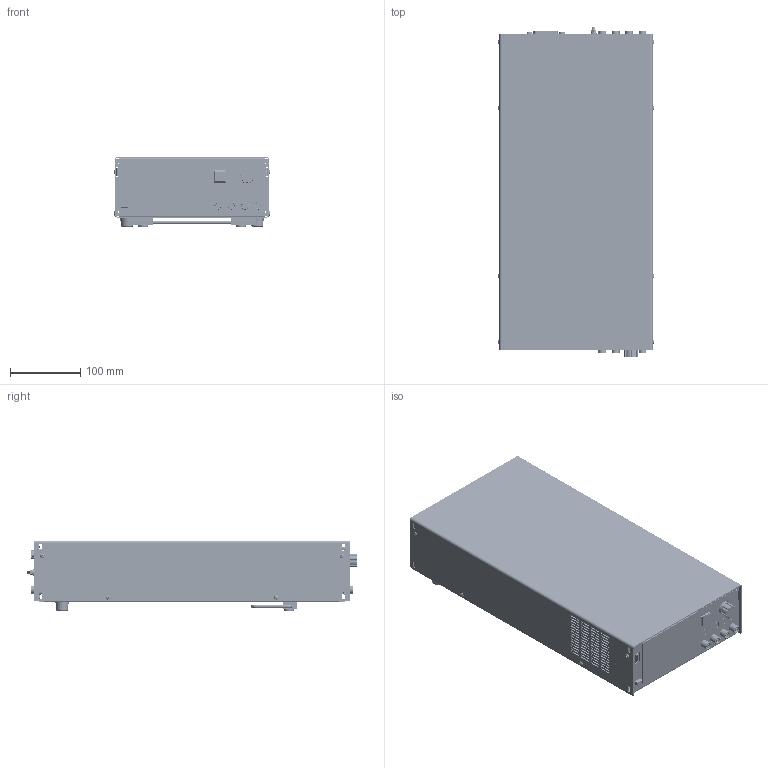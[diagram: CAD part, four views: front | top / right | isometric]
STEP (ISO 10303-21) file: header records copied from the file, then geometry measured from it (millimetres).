
FILE_DESCRIPTION(('STEP AP214'),'1');
FILE_NAME('TRL_M2_H19Z_2HE_SB32_4_SB32_4_A_3D_01.step','2021-07-20T11:58:44',(' '),(' '),'Spatial InterOp 3D',' ',' ');
FILE_SCHEMA(('AUTOMOTIVE_DESIGN { 1 0 10303 214 1 1 1 1 }'));
Length unit declared in the file: millimetre
Products named in the file (19): 2146_TRL Bodenplatte_3D_03; PEM_M5; AutoCreatedBlock_1107; DIN 7985-A; 2147_TRL_Frontplatte_Buchsen_3D_03_mit_Einbauten; 2148_TRL_Rückwand_Buchsen_3D_02_mit_Einbauten; *U1526; 1F840730; *U1527; *U1528; *U1529; *U1530; *U1531; *U1532; *U1533; *U1534; AutoCreatedBlock_1115; AutoCreatedBlock_1103
Assembly tree (35 placements, depth 3):
  (unnamed)
    2146_TRL Bodenplatte_3D_03
      PEM_M5  x2
      AutoCreatedBlock_1107
    DIN 7985-A  x8
    2147_TRL_Frontplatte_Buchsen_3D_03_mit_Einbauten
    2148_TRL_Rückwand_Buchsen_3D_02_mit_Einbauten
      *U1526  x4
      1F840730  x2
      *U1527
      *U1528
      *U1529
      *U1530  x2
      *U1531
      *U1532  x3
      *U1533  x2
      *U1534  x2
      AutoCreatedBlock_1115
    AutoCreatedBlock_1103
Bounding box: 222.66 x 469.1 x 100.7 mm (x, y, z)
Volume: 7452803.3 mm3; surface area: 1022451 mm2
Topology: 197 solids, 200 shells, 10732 faces, 26901 edges, 16907 vertices
Faces by surface type: plane 4938, cone 3027, cylinder 2145, bspline 344, torus 192, sphere 84, extrusion 2
Entity records: 357895 total; most frequent: CARTESIAN_POINT 61867, DIRECTION 46528, ORIENTED_EDGE 44884, EDGE_CURVE 22442, AXIS2_PLACEMENT_3D 15638, VECTOR 15252, LINE 15250, VERTEX_POINT 13883
